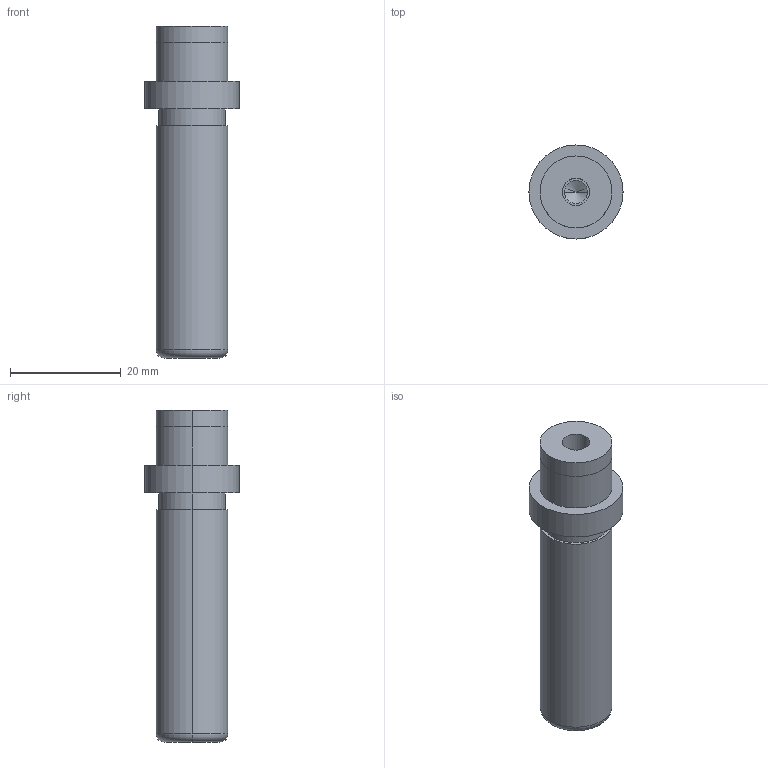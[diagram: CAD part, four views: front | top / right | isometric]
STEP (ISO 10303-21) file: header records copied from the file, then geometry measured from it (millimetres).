
FILE_DESCRIPTION(/* description */ (''),/* implementation_level */ '2;1');
FILE_NAME(/* name */ '3d_sgpw13-50_05301_r00.stp',/* time_stamp */ '2011-01-10T14:11:05+09:00',/* author */ ('MISUMI'),/* organization */ (''),/* preprocessor_version */ 'ST-DEVELOPER v11',/* originating_system */ 'UGS - NX 5.0',/* authorisation */ '');
FILE_SCHEMA (('CONFIG_CONTROL_DESIGN'));
Length unit declared in the file: millimetre
Products named in the file (1): 3d_sgpw13-50_05301_r00
Bounding box: 17 x 17 x 60 mm (x, y, z)
Volume: 7800.1 mm3; surface area: 3419.5 mm2
Topology: 1 solids, 1 shells, 31 faces, 64 edges, 38 vertices
Faces by surface type: cylinder 18, plane 7, cone 4, torus 2
Entity records: 890 total; most frequent: DIRECTION 162, CARTESIAN_POINT 130, ORIENTED_EDGE 120, AXIS2_PLACEMENT_3D 70, EDGE_CURVE 60, EDGE_LOOP 38, CIRCLE 38, VERTEX_POINT 38
